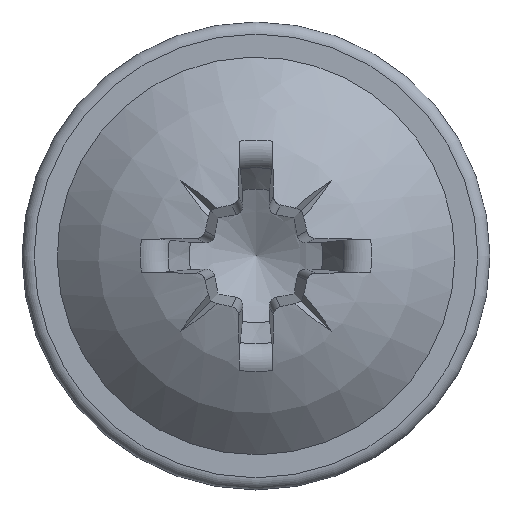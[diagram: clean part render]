
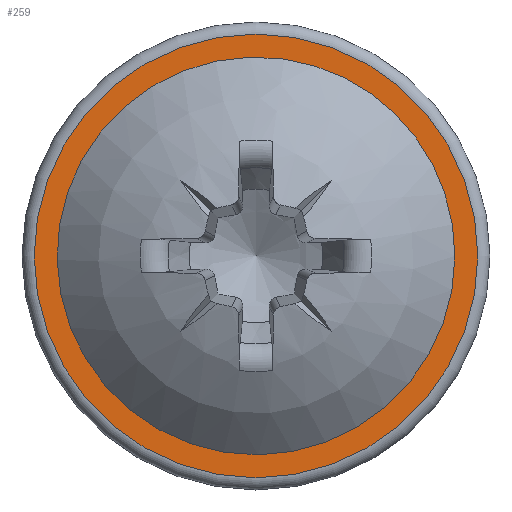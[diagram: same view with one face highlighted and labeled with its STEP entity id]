
A CAD part, top view. The second image highlights one B-rep face of the part: STEP entity #259.
In plain terms, the highlighted planar face has unit normal (0, 0, 1).
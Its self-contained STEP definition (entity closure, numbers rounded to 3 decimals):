
#69=PLANE('',#1474);
#233=FACE_BOUND('',#437,.T.);
#234=FACE_BOUND('',#438,.T.);
#259=ADVANCED_FACE('',(#233,#234),#69,.F.);
#437=EDGE_LOOP('',(#646));
#438=EDGE_LOOP('',(#647));
#522=CIRCLE('',#1432,5.738);
#557=CIRCLE('',#1473,6.4);
#646=ORIENTED_EDGE('',*,*,#1191,.T.);
#647=ORIENTED_EDGE('',*,*,#1140,.F.);
#1004=VERTEX_POINT('',#2441);
#1053=VERTEX_POINT('',#2745);
#1140=EDGE_CURVE('',#1004,#1004,#522,.T.);
#1191=EDGE_CURVE('',#1053,#1053,#557,.T.);
#1432=AXIS2_PLACEMENT_3D('',#2440,#1543,#1544);
#1473=AXIS2_PLACEMENT_3D('',#2744,#1626,#1627);
#1474=AXIS2_PLACEMENT_3D('',#2746,#1628,#1629);
#1543=DIRECTION('',(0.,0.,1.));
#1544=DIRECTION('',(1.,0.,0.));
#1626=DIRECTION('',(0.,0.,1.));
#1627=DIRECTION('',(-1.,0.,0.));
#1628=DIRECTION('',(0.,0.,-1.));
#1629=DIRECTION('',(-1.,0.,0.));
#2440=CARTESIAN_POINT('',(0.,0.,1.4));
#2441=CARTESIAN_POINT('',(5.738,0.,1.4));
#2744=CARTESIAN_POINT('',(0.,0.,1.4));
#2745=CARTESIAN_POINT('',(-6.4,0.,1.4));
#2746=CARTESIAN_POINT('',(0.,6.75,1.4));
